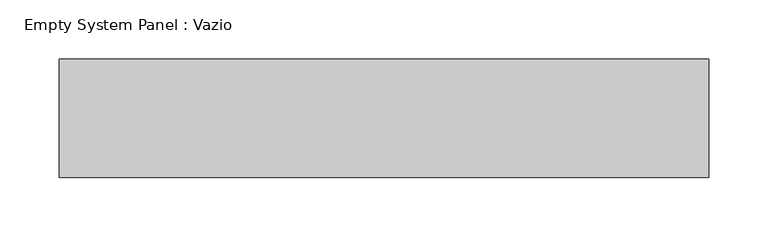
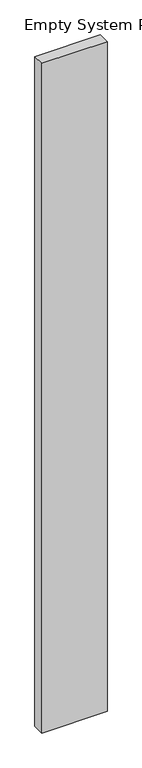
"""IFC4 building model written with IfcOpenShell, lengths in millimetres: plate geometry, Empty System Panel : Vazio."""

from ifc_helpers import new_model, si_unit, origin, origin_with_axes, place, context, project, spatial, polyline, outline, extrude, source, transform, mapped, element, save


def empty_system_panel_vazio_cec06a23(model_context):
    return source(origin(), model_context, "Body", "SweptSolid", [
        extrude(outline(polyline([(274.2187501, 50.0), (-274.2187501, 50.0), (-274.2187501, 150.0), (274.2187501, 150.0), (274.2187501, 50.0)])), origin_with_axes(), (0.0, 0.0, 1.0), 5952.2956296),
    ])


if __name__ == "__main__":
    model = new_model("IFC4")
    model_context = context("Model", 3, world=origin())
    ifc_project = project(units=[si_unit("LENGTHUNIT", "METRE", prefix="MILLI")], contexts=[model_context])
    site = spatial("IfcSite", under=ifc_project)
    building = spatial("IfcBuilding", under=site)
    placement = place(None, origin())
    empty_system_panel_vazio_shape = empty_system_panel_vazio_cec06a23(model_context)
    element("IfcPlate", 1, ObjectType="Empty System Panel : Vazio", at=placement, inside=building, context=model_context, shape_type="MappedRepresentation", body=[
        mapped(empty_system_panel_vazio_shape, transform((0.0, 0.0, 0.0), x_axis=(1.0, 0.0, 0.0), y_axis=(0.0, 1.0, 0.0), z_axis=(0.0, 0.0, 1.0))),
    ])
    save(model, "model.ifc")
